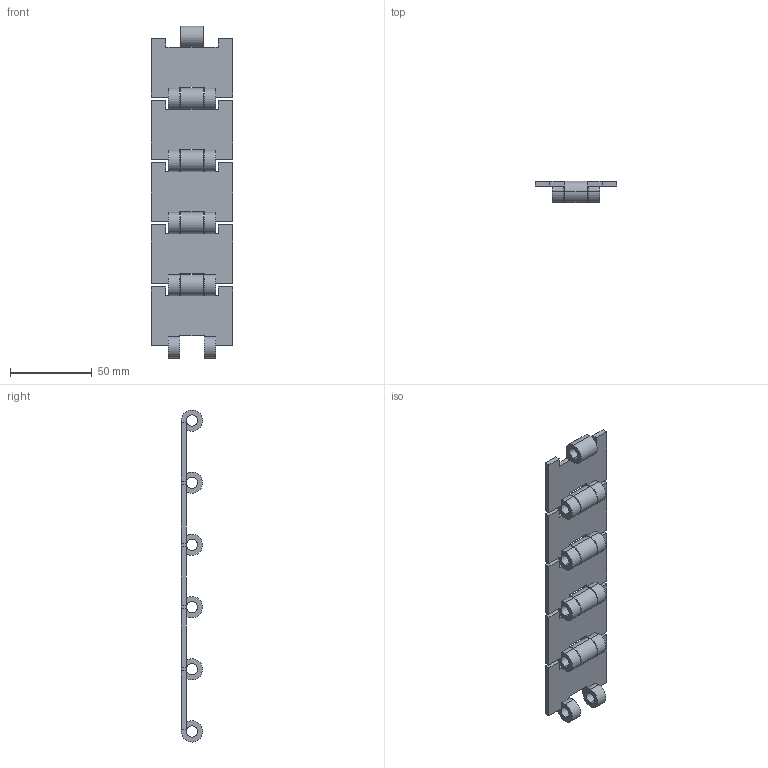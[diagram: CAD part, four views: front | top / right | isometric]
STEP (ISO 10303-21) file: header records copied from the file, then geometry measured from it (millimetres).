
FILE_DESCRIPTION (( 'STEP AP203' ), '1' );
FILE_NAME ('810304050.STEP', '2024-10-23T14:17:07', ( '' ), ( '' ), 'SwSTEP 2.0', 'SolidWorks 2021', '' );
FILE_SCHEMA (( 'CONFIG_CONTROL_DESIGN' ));
Length unit declared in the file: millimetre
Products named in the file (1): 810304050
Bounding box: 50 x 13 x 203.5 mm (x, y, z)
Volume: 36178.4 mm3; surface area: 28765.9 mm2
Topology: 5 solids, 5 shells, 170 faces, 480 edges, 320 vertices
Faces by surface type: plane 95, cylinder 75
Entity records: 5663 total; most frequent: DIRECTION 972, CARTESIAN_POINT 971, ORIENTED_EDGE 960, EDGE_CURVE 480, VECTOR 330, LINE 330, AXIS2_PLACEMENT_3D 321, VERTEX_POINT 320
